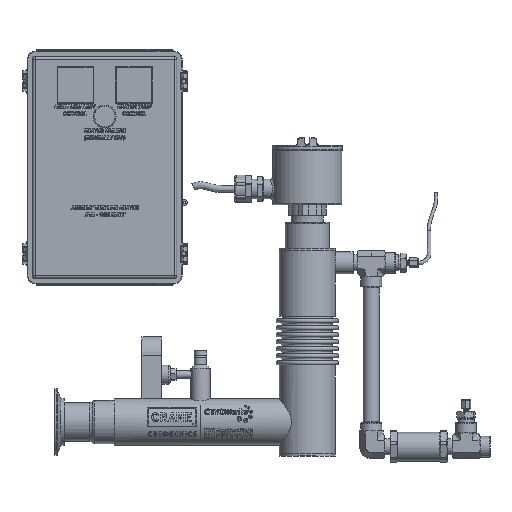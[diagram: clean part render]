
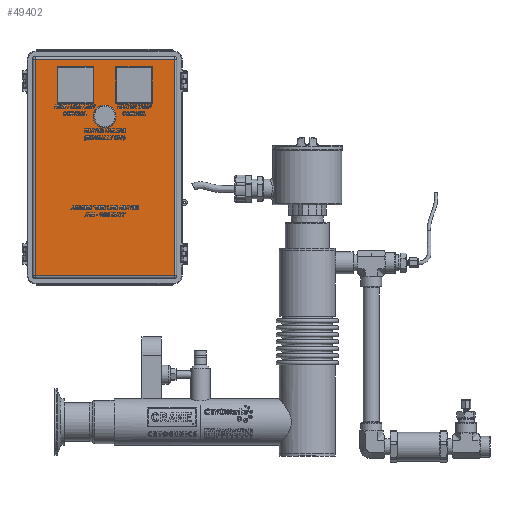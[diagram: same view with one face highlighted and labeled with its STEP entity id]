
A CAD part, top view. The second image highlights one B-rep face of the part: STEP entity #49402.
In plain terms, the highlighted planar face has unit normal (0, 0, 1).
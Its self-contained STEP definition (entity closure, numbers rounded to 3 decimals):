
#1075 = CIRCLE ( 'NONE', #83819, 0.437 ) ;
#2118 = ORIENTED_EDGE ( 'NONE', *, *, #63560, .F. ) ;
#5074 = CARTESIAN_POINT ( 'NONE',  ( 6.164, 7.513, 1.201 ) ) ;
#5760 = ORIENTED_EDGE ( 'NONE', *, *, #67194, .F. ) ;
#6762 = DIRECTION ( 'NONE',  ( 0., 0., 1. ) ) ;
#8999 = VERTEX_POINT ( 'NONE', #108515 ) ;
#9132 = ORIENTED_EDGE ( 'NONE', *, *, #85925, .T. ) ;
#10236 = VERTEX_POINT ( 'NONE', #58532 ) ;
#11369 = LINE ( 'NONE', #97942, #127181 ) ;
#12289 = VECTOR ( 'NONE', #67821, 39.37 ) ;
#13480 = CARTESIAN_POINT ( 'NONE',  ( 6.164, 18.784, 1.201 ) ) ;
#13726 = ORIENTED_EDGE ( 'NONE', *, *, #118099, .F. ) ;
#13812 = CARTESIAN_POINT ( 'NONE',  ( 2.582, 13.09, 1.201 ) ) ;
#15263 = EDGE_LOOP ( 'NONE', ( #9132, #55894, #143946, #91740 ) ) ;
#16189 = PLANE ( 'NONE',  #126524 ) ;
#17648 = CARTESIAN_POINT ( 'NONE',  ( 0.185, 18.215, 1.201 ) ) ;
#17920 = CARTESIAN_POINT ( 'NONE',  ( 0.185, 18.215, 1.201 ) ) ;
#18221 = DIRECTION ( 'NONE',  ( 1., 0., 0. ) ) ;
#21542 = VECTOR ( 'NONE', #36142, 39.37 ) ;
#25126 = DIRECTION ( 'NONE',  ( 0., 0., 1. ) ) ;
#26163 = LINE ( 'NONE', #77941, #147127 ) ;
#26780 = LINE ( 'NONE', #62460, #69075 ) ;
#30214 = DIRECTION ( 'NONE',  ( -1., 0., 0. ) ) ;
#30843 = VERTEX_POINT ( 'NONE', #89620 ) ;
#35704 = DIRECTION ( 'NONE',  ( 0., -1., 0. ) ) ;
#35721 = VECTOR ( 'NONE', #70851, 39.37 ) ;
#36142 = DIRECTION ( 'NONE',  ( -1., 0., 0. ) ) ;
#36497 = FACE_BOUND ( 'NONE', #118761, .T. ) ;
#36615 = EDGE_CURVE ( 'NONE', #104726, #110098, #62846, .T. ) ;
#38577 = LINE ( 'NONE', #13480, #119131 ) ;
#39981 = VECTOR ( 'NONE', #148590, 39.37 ) ;
#40321 = VERTEX_POINT ( 'NONE', #77779 ) ;
#41092 = EDGE_LOOP ( 'NONE', ( #83791, #5760, #111409, #134147 ) ) ;
#43289 = FACE_OUTER_BOUND ( 'NONE', #15263, .T. ) ;
#45636 = CARTESIAN_POINT ( 'NONE',  ( 1.957, 18.215, 1.201 ) ) ;
#46672 = VERTEX_POINT ( 'NONE', #5074 ) ;
#47868 = LINE ( 'NONE', #97205, #66914 ) ;
#48201 = EDGE_LOOP ( 'NONE', ( #133287, #13726, #107926, #119032 ) ) ;
#48301 = CARTESIAN_POINT ( 'NONE',  ( 3.207, 18.215, 1.201 ) ) ;
#49402 = ADVANCED_FACE ( 'NONE', ( #36497, #85840, #110953, #43289 ), #16189, .T. ) ;
#51391 = EDGE_CURVE ( 'NONE', #46672, #105570, #38577, .T. ) ;
#53656 = EDGE_CURVE ( 'NONE', #89747, #141044, #11369, .T. ) ;
#53876 = CARTESIAN_POINT ( 'NONE',  ( 3.207, 16.444, 1.201 ) ) ;
#54540 = DIRECTION ( 'NONE',  ( 1., 0., 0. ) ) ;
#55751 = CARTESIAN_POINT ( 'NONE',  ( -1.001, 7.513, 1.201 ) ) ;
#55894 = ORIENTED_EDGE ( 'NONE', *, *, #51391, .T. ) ;
#57707 = CARTESIAN_POINT ( 'NONE',  ( 0.185, 18.215, 1.201 ) ) ;
#58532 = CARTESIAN_POINT ( 'NONE',  ( 4.978, 16.444, 1.201 ) ) ;
#58737 = CARTESIAN_POINT ( 'NONE',  ( 0.185, 16.444, 1.201 ) ) ;
#62460 = CARTESIAN_POINT ( 'NONE',  ( 4.978, 18.215, 1.201 ) ) ;
#62846 = LINE ( 'NONE', #134869, #39981 ) ;
#63560 = EDGE_CURVE ( 'NONE', #8999, #8999, #1075, .T. ) ;
#66914 = VECTOR ( 'NONE', #35704, 39.37 ) ;
#67194 = EDGE_CURVE ( 'NONE', #110098, #84023, #79584, .T. ) ;
#67562 = CARTESIAN_POINT ( 'NONE',  ( 0.185, 16.444, 1.201 ) ) ;
#67821 = DIRECTION ( 'NONE',  ( 0., -1., 0. ) ) ;
#67896 = EDGE_CURVE ( 'NONE', #105570, #89747, #110073, .T. ) ;
#69075 = VECTOR ( 'NONE', #76183, 39.37 ) ;
#69078 = CARTESIAN_POINT ( 'NONE',  ( 2.582, 15.715, 1.201 ) ) ;
#70851 = DIRECTION ( 'NONE',  ( 1., 0., 0. ) ) ;
#72445 = LINE ( 'NONE', #58737, #35721 ) ;
#76183 = DIRECTION ( 'NONE',  ( 0., 1., 0. ) ) ;
#76630 = EDGE_CURVE ( 'NONE', #10236, #95345, #26780, .T. ) ;
#77779 = CARTESIAN_POINT ( 'NONE',  ( 3.207, 18.215, 1.201 ) ) ;
#77941 = CARTESIAN_POINT ( 'NONE',  ( 6.28, 7.513, 1.201 ) ) ;
#78368 = CARTESIAN_POINT ( 'NONE',  ( 1.957, 16.444, 1.201 ) ) ;
#79584 = LINE ( 'NONE', #57707, #154150 ) ;
#83791 = ORIENTED_EDGE ( 'NONE', *, *, #127824, .F. ) ;
#83819 = AXIS2_PLACEMENT_3D ( 'NONE', #69078, #6762, #54540 ) ;
#84023 = VERTEX_POINT ( 'NONE', #17920 ) ;
#85782 = DIRECTION ( 'NONE',  ( 0., -1., 0. ) ) ;
#85840 = FACE_BOUND ( 'NONE', #48201, .T. ) ;
#85925 = EDGE_CURVE ( 'NONE', #141044, #46672, #26163, .T. ) ;
#89620 = CARTESIAN_POINT ( 'NONE',  ( 3.207, 16.444, 1.201 ) ) ;
#89747 = VERTEX_POINT ( 'NONE', #136500 ) ;
#90885 = DIRECTION ( 'NONE',  ( 1., 0., 0. ) ) ;
#91213 = CARTESIAN_POINT ( 'NONE',  ( 4.978, 18.215, 1.201 ) ) ;
#91740 = ORIENTED_EDGE ( 'NONE', *, *, #53656, .T. ) ;
#92103 = LINE ( 'NONE', #17648, #12289 ) ;
#95345 = VERTEX_POINT ( 'NONE', #91213 ) ;
#96309 = DIRECTION ( 'NONE',  ( -1., 0., 0. ) ) ;
#97205 = CARTESIAN_POINT ( 'NONE',  ( 3.207, 18.215, 1.201 ) ) ;
#97942 = CARTESIAN_POINT ( 'NONE',  ( -1.001, 7.397, 1.201 ) ) ;
#104726 = VERTEX_POINT ( 'NONE', #78368 ) ;
#105570 = VERTEX_POINT ( 'NONE', #147341 ) ;
#107926 = ORIENTED_EDGE ( 'NONE', *, *, #76630, .F. ) ;
#108515 = CARTESIAN_POINT ( 'NONE',  ( 3.019, 15.715, 1.201 ) ) ;
#110073 = LINE ( 'NONE', #146481, #127538 ) ;
#110098 = VERTEX_POINT ( 'NONE', #45636 ) ;
#110953 = FACE_BOUND ( 'NONE', #41092, .T. ) ;
#111409 = ORIENTED_EDGE ( 'NONE', *, *, #36615, .F. ) ;
#113026 = DIRECTION ( 'NONE',  ( 0., 1., 0. ) ) ;
#114139 = DIRECTION ( 'NONE',  ( 0., 1., 0. ) ) ;
#118099 = EDGE_CURVE ( 'NONE', #95345, #40321, #159141, .T. ) ;
#118761 = EDGE_LOOP ( 'NONE', ( #2118 ) ) ;
#119032 = ORIENTED_EDGE ( 'NONE', *, *, #152298, .F. ) ;
#119131 = VECTOR ( 'NONE', #113026, 39.37 ) ;
#126524 = AXIS2_PLACEMENT_3D ( 'NONE', #13812, #25126, #114139 ) ;
#127181 = VECTOR ( 'NONE', #85782, 39.37 ) ;
#127499 = LINE ( 'NONE', #53876, #137550 ) ;
#127538 = VECTOR ( 'NONE', #96309, 39.37 ) ;
#127824 = EDGE_CURVE ( 'NONE', #84023, #133923, #92103, .T. ) ;
#133287 = ORIENTED_EDGE ( 'NONE', *, *, #144202, .F. ) ;
#133923 = VERTEX_POINT ( 'NONE', #67562 ) ;
#134147 = ORIENTED_EDGE ( 'NONE', *, *, #140232, .F. ) ;
#134869 = CARTESIAN_POINT ( 'NONE',  ( 1.957, 18.215, 1.201 ) ) ;
#136500 = CARTESIAN_POINT ( 'NONE',  ( -1.001, 18.668, 1.201 ) ) ;
#137550 = VECTOR ( 'NONE', #18221, 39.37 ) ;
#140232 = EDGE_CURVE ( 'NONE', #133923, #104726, #72445, .T. ) ;
#141044 = VERTEX_POINT ( 'NONE', #55751 ) ;
#143946 = ORIENTED_EDGE ( 'NONE', *, *, #67896, .T. ) ;
#144202 = EDGE_CURVE ( 'NONE', #40321, #30843, #47868, .T. ) ;
#146481 = CARTESIAN_POINT ( 'NONE',  ( -1.117, 18.668, 1.201 ) ) ;
#147127 = VECTOR ( 'NONE', #90885, 39.37 ) ;
#147341 = CARTESIAN_POINT ( 'NONE',  ( 6.164, 18.668, 1.201 ) ) ;
#148590 = DIRECTION ( 'NONE',  ( 0., 1., 0. ) ) ;
#152298 = EDGE_CURVE ( 'NONE', #30843, #10236, #127499, .T. ) ;
#154150 = VECTOR ( 'NONE', #30214, 39.37 ) ;
#159141 = LINE ( 'NONE', #48301, #21542 ) ;
